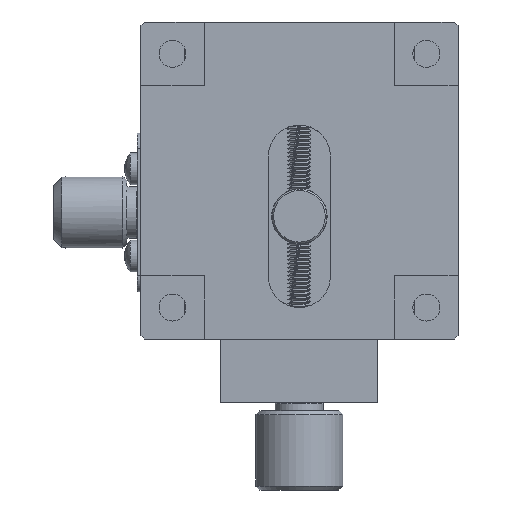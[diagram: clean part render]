
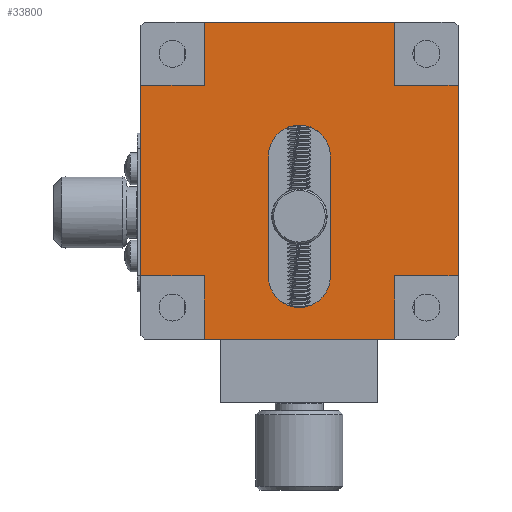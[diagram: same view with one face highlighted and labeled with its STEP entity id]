
A CAD part, front view. The second image highlights one B-rep face of the part: STEP entity #33800.
In plain terms, the highlighted planar face has unit normal (0, -1, 0).
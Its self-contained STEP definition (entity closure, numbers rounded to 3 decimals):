
#167 = CARTESIAN_POINT ( 'NONE',  ( 20., 0.2, -16.9 ) ) ;
#652 = DIRECTION ( 'NONE',  ( 0., 0., -1. ) ) ;
#1412 = LINE ( 'NONE', #20776, #16651 ) ;
#2051 = EDGE_CURVE ( 'NONE', #23279, #32628, #30870, .T. ) ;
#2642 = VERTEX_POINT ( 'NONE', #25096 ) ;
#2757 = ORIENTED_EDGE ( 'NONE', *, *, #42456, .T. ) ;
#2864 = VERTEX_POINT ( 'NONE', #7633 ) ;
#3015 = LINE ( 'NONE', #22803, #31998 ) ;
#3752 = ORIENTED_EDGE ( 'NONE', *, *, #19147, .T. ) ;
#3919 = ORIENTED_EDGE ( 'NONE', *, *, #38904, .T. ) ;
#4073 = AXIS2_PLACEMENT_3D ( 'NONE', #167, #8838, #42552 ) ;
#4209 = DIRECTION ( 'NONE',  ( 0., 0., 1. ) ) ;
#4343 = CARTESIAN_POINT ( 'NONE',  ( 32., 0.2, 0. ) ) ;
#4686 = DIRECTION ( 'NONE',  ( 0., 1., 0. ) ) ;
#5767 = ORIENTED_EDGE ( 'NONE', *, *, #22727, .F. ) ;
#6077 = VERTEX_POINT ( 'NONE', #11540 ) ;
#6725 = VERTEX_POINT ( 'NONE', #37742 ) ;
#6799 = ORIENTED_EDGE ( 'NONE', *, *, #42553, .F. ) ;
#7398 = LINE ( 'NONE', #7606, #8576 ) ;
#7530 = CARTESIAN_POINT ( 'NONE',  ( 0., 0.2, 0. ) ) ;
#7606 = CARTESIAN_POINT ( 'NONE',  ( 0., 0.2, -40. ) ) ;
#7633 = CARTESIAN_POINT ( 'NONE',  ( 8., 0.2, -8. ) ) ;
#7930 = ORIENTED_EDGE ( 'NONE', *, *, #12707, .T. ) ;
#8410 = VECTOR ( 'NONE', #23361, 1000. ) ;
#8576 = VECTOR ( 'NONE', #40722, 1000. ) ;
#8838 = DIRECTION ( 'NONE',  ( 0., 1., 0. ) ) ;
#9600 = LINE ( 'NONE', #26162, #20254 ) ;
#10199 = VERTEX_POINT ( 'NONE', #39922 ) ;
#10498 = CARTESIAN_POINT ( 'NONE',  ( 16.1, 0.2, -16.9 ) ) ;
#10517 = VERTEX_POINT ( 'NONE', #22244 ) ;
#11411 = EDGE_CURVE ( 'NONE', #6725, #31787, #35991, .T. ) ;
#11540 = CARTESIAN_POINT ( 'NONE',  ( 40., 0.2, -8. ) ) ;
#11655 = LINE ( 'NONE', #34886, #34358 ) ;
#11942 = EDGE_CURVE ( 'NONE', #2864, #23174, #9600, .T. ) ;
#12595 = DIRECTION ( 'NONE',  ( 0., 0., -1. ) ) ;
#12707 = EDGE_CURVE ( 'NONE', #10517, #30693, #7398, .T. ) ;
#15454 = VERTEX_POINT ( 'NONE', #29726 ) ;
#15941 = EDGE_LOOP ( 'NONE', ( #27513, #2757, #25993, #3919 ) ) ;
#16221 = EDGE_CURVE ( 'NONE', #15454, #2864, #3015, .T. ) ;
#16234 = AXIS2_PLACEMENT_3D ( 'NONE', #42392, #25407, #25836 ) ;
#16651 = VECTOR ( 'NONE', #4209, 1000. ) ;
#17331 = VECTOR ( 'NONE', #28437, 1000. ) ;
#17643 = LINE ( 'NONE', #7530, #38103 ) ;
#17724 = VERTEX_POINT ( 'NONE', #39474 ) ;
#18078 = VECTOR ( 'NONE', #12595, 1000. ) ;
#18559 = CARTESIAN_POINT ( 'NONE',  ( 40., 0.2, -8. ) ) ;
#18938 = ORIENTED_EDGE ( 'NONE', *, *, #31127, .F. ) ;
#18998 = DIRECTION ( 'NONE',  ( -1., 0., 0. ) ) ;
#19147 = EDGE_CURVE ( 'NONE', #17724, #6077, #42548, .T. ) ;
#19168 = FACE_BOUND ( 'NONE', #15941, .T. ) ;
#19328 = CARTESIAN_POINT ( 'NONE',  ( 40., 0.2, 0. ) ) ;
#20191 = CARTESIAN_POINT ( 'NONE',  ( 32., 0.2, 0. ) ) ;
#20254 = VECTOR ( 'NONE', #39288, 1000. ) ;
#20761 = VERTEX_POINT ( 'NONE', #29759 ) ;
#20776 = CARTESIAN_POINT ( 'NONE',  ( 8., 0.2, -40. ) ) ;
#20944 = CARTESIAN_POINT ( 'NONE',  ( 16.1, 0.2, -16.9 ) ) ;
#20970 = CARTESIAN_POINT ( 'NONE',  ( 23.9, 0.2, -16.9 ) ) ;
#21051 = CARTESIAN_POINT ( 'NONE',  ( 20., 0.2, -32.1 ) ) ;
#21183 = EDGE_CURVE ( 'NONE', #28579, #6077, #21992, .T. ) ;
#21243 = DIRECTION ( 'NONE',  ( 0., 0., -1. ) ) ;
#21992 = LINE ( 'NONE', #18559, #17331 ) ;
#22244 = CARTESIAN_POINT ( 'NONE',  ( 8., 0.2, -40. ) ) ;
#22394 = PLANE ( 'NONE',  #16234 ) ;
#22441 = EDGE_CURVE ( 'NONE', #39042, #23174, #28958, .T. ) ;
#22727 = EDGE_CURVE ( 'NONE', #10517, #10199, #1412, .T. ) ;
#22803 = CARTESIAN_POINT ( 'NONE',  ( 0., 0.2, -8. ) ) ;
#23174 = VERTEX_POINT ( 'NONE', #35569 ) ;
#23279 = VERTEX_POINT ( 'NONE', #20944 ) ;
#23361 = DIRECTION ( 'NONE',  ( -1., 0., 0. ) ) ;
#23668 = EDGE_CURVE ( 'NONE', #17724, #20761, #11655, .T. ) ;
#24800 = DIRECTION ( 'NONE',  ( -1., 0., 0. ) ) ;
#25096 = CARTESIAN_POINT ( 'NONE',  ( 0., 0.2, -32. ) ) ;
#25407 = DIRECTION ( 'NONE',  ( 0., -1., 0. ) ) ;
#25505 = VECTOR ( 'NONE', #29206, 1000. ) ;
#25618 = EDGE_CURVE ( 'NONE', #15454, #2642, #17643, .T. ) ;
#25836 = DIRECTION ( 'NONE',  ( 0., 0., -1. ) ) ;
#25993 = ORIENTED_EDGE ( 'NONE', *, *, #11411, .T. ) ;
#26162 = CARTESIAN_POINT ( 'NONE',  ( 8., 0.2, 0. ) ) ;
#27513 = ORIENTED_EDGE ( 'NONE', *, *, #2051, .T. ) ;
#28106 = CARTESIAN_POINT ( 'NONE',  ( 23.9, 0.2, -16.9 ) ) ;
#28437 = DIRECTION ( 'NONE',  ( 1., 0., 0. ) ) ;
#28451 = ORIENTED_EDGE ( 'NONE', *, *, #21183, .F. ) ;
#28571 = ORIENTED_EDGE ( 'NONE', *, *, #29042, .F. ) ;
#28579 = VERTEX_POINT ( 'NONE', #28714 ) ;
#28714 = CARTESIAN_POINT ( 'NONE',  ( 32., 0.2, -8. ) ) ;
#28958 = LINE ( 'NONE', #42088, #8410 ) ;
#29042 = EDGE_CURVE ( 'NONE', #10199, #2642, #35322, .T. ) ;
#29176 = VECTOR ( 'NONE', #30999, 1000. ) ;
#29206 = DIRECTION ( 'NONE',  ( 0., 0., 1. ) ) ;
#29726 = CARTESIAN_POINT ( 'NONE',  ( 0., 0.2, -8. ) ) ;
#29759 = CARTESIAN_POINT ( 'NONE',  ( 32., 0.2, -32. ) ) ;
#29897 = ORIENTED_EDGE ( 'NONE', *, *, #22441, .T. ) ;
#30065 = VECTOR ( 'NONE', #33510, 1000. ) ;
#30693 = VERTEX_POINT ( 'NONE', #34269 ) ;
#30870 = CIRCLE ( 'NONE', #4073, 3.9 ) ;
#30980 = ORIENTED_EDGE ( 'NONE', *, *, #23668, .F. ) ;
#30999 = DIRECTION ( 'NONE',  ( 0., 0., -1. ) ) ;
#31083 = ORIENTED_EDGE ( 'NONE', *, *, #11942, .F. ) ;
#31127 = EDGE_CURVE ( 'NONE', #39042, #28579, #34017, .T. ) ;
#31787 = VERTEX_POINT ( 'NONE', #35561 ) ;
#31798 = VECTOR ( 'NONE', #21243, 1000. ) ;
#31998 = VECTOR ( 'NONE', #32686, 1000. ) ;
#32175 = CARTESIAN_POINT ( 'NONE',  ( 32., 0.2, -40. ) ) ;
#32628 = VERTEX_POINT ( 'NONE', #20970 ) ;
#32686 = DIRECTION ( 'NONE',  ( 1., 0., 0. ) ) ;
#33325 = ORIENTED_EDGE ( 'NONE', *, *, #25618, .T. ) ;
#33510 = DIRECTION ( 'NONE',  ( 0., 0., 1. ) ) ;
#33800 = ADVANCED_FACE ( 'NONE', ( #19168, #38530 ), #22394, .T. ) ;
#34017 = LINE ( 'NONE', #4343, #29176 ) ;
#34138 = LINE ( 'NONE', #28106, #31798 ) ;
#34269 = CARTESIAN_POINT ( 'NONE',  ( 32., 0.2, -40. ) ) ;
#34355 = DIRECTION ( 'NONE',  ( 0., 0., -1. ) ) ;
#34358 = VECTOR ( 'NONE', #24800, 1000. ) ;
#34886 = CARTESIAN_POINT ( 'NONE',  ( 40., 0.2, -32. ) ) ;
#34979 = LINE ( 'NONE', #32175, #18078 ) ;
#35317 = VECTOR ( 'NONE', #18998, 1000. ) ;
#35322 = LINE ( 'NONE', #38782, #35317 ) ;
#35383 = ORIENTED_EDGE ( 'NONE', *, *, #16221, .F. ) ;
#35561 = CARTESIAN_POINT ( 'NONE',  ( 16.1, 0.2, -32.1 ) ) ;
#35569 = CARTESIAN_POINT ( 'NONE',  ( 8., 0.2, 0. ) ) ;
#35991 = CIRCLE ( 'NONE', #39446, 3.9 ) ;
#36184 = EDGE_LOOP ( 'NONE', ( #33325, #28571, #5767, #7930, #6799, #30980, #3752, #28451, #18938, #29897, #31083, #35383 ) ) ;
#37742 = CARTESIAN_POINT ( 'NONE',  ( 23.9, 0.2, -32.1 ) ) ;
#38103 = VECTOR ( 'NONE', #652, 1000. ) ;
#38530 = FACE_OUTER_BOUND ( 'NONE', #36184, .T. ) ;
#38782 = CARTESIAN_POINT ( 'NONE',  ( 0., 0.2, -32. ) ) ;
#38904 = EDGE_CURVE ( 'NONE', #31787, #23279, #40407, .T. ) ;
#39042 = VERTEX_POINT ( 'NONE', #20191 ) ;
#39288 = DIRECTION ( 'NONE',  ( 0., 0., 1. ) ) ;
#39446 = AXIS2_PLACEMENT_3D ( 'NONE', #21051, #4686, #34355 ) ;
#39474 = CARTESIAN_POINT ( 'NONE',  ( 40., 0.2, -32. ) ) ;
#39922 = CARTESIAN_POINT ( 'NONE',  ( 8., 0.2, -32. ) ) ;
#40407 = LINE ( 'NONE', #10498, #30065 ) ;
#40722 = DIRECTION ( 'NONE',  ( 1., 0., 0. ) ) ;
#42088 = CARTESIAN_POINT ( 'NONE',  ( 0., 0.2, 0. ) ) ;
#42392 = CARTESIAN_POINT ( 'NONE',  ( 20., 0.2, -20. ) ) ;
#42456 = EDGE_CURVE ( 'NONE', #32628, #6725, #34138, .T. ) ;
#42548 = LINE ( 'NONE', #19328, #25505 ) ;
#42552 = DIRECTION ( 'NONE',  ( 0., 0., -1. ) ) ;
#42553 = EDGE_CURVE ( 'NONE', #20761, #30693, #34979, .T. ) ;
